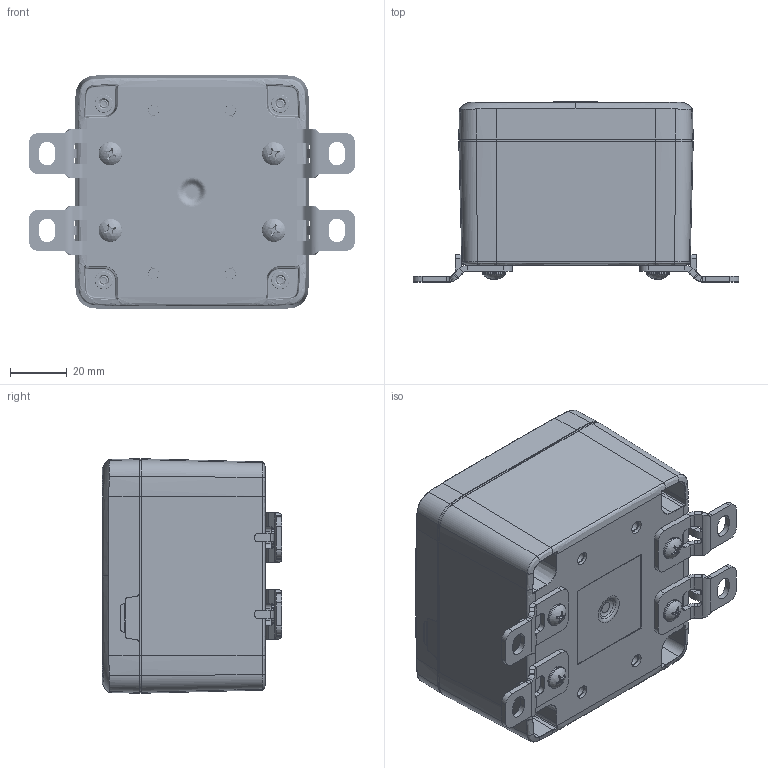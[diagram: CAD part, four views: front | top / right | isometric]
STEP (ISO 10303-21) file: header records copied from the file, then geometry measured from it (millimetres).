
FILE_DESCRIPTION (( 'STEP AP214' ), '1' );
FILE_NAME ('HN-33-24.STEP', '2026-09-24T17:57:46', ( '' ), ( '' ), 'SwSTEP 2.0', 'SolidWorks 2026', '' );
FILE_SCHEMA (( 'AUTOMOTIVE_DESIGN' ));
Length unit declared in the file: inch
Products named in the file (11): HN-33C_HN-33C-02; HN-90F-01_HN-90F-01; LABEL-107; HN-33-24; SCREWS-054_DEFAULT; HN-33G_default; HN-33B_HN-33BP-00; SCREWS-xxx_#8-16 PLASTITE, PAN, PHILLIPS_SCREWS-044; INSERTS-3_INSERTS-3; HN-33CG_HN-33CG-02; HN-33BN_HN-33BPN-00
Assembly tree (22 placements, depth 3):
  HN-33-24
    HN-33B_HN-33BP-00
      HN-33BN_HN-33BPN-00
      INSERTS-3_INSERTS-3  x4
      LABEL-107
    HN-33CG_HN-33CG-02
      HN-33C_HN-33C-02
      HN-33G_default
    SCREWS-054_DEFAULT  x4
    HN-90F-01_HN-90F-01  x4
    SCREWS-xxx_#8-16 PLASTITE, PAN, PHILLIPS_SCREWS-044  x4
Bounding box: 114.7 x 63.33 x 82.55 mm (x, y, z)
Volume: 121230.6 mm3; surface area: 93165.4 mm2
Topology: 19 solids, 21 shells, 3669 faces, 8808 edges, 5201 vertices
Faces by surface type: plane 785, cylinder 756, bspline 710, torus 680, cone 666, sphere 72
Full cylindrical faces by diameter (mm): 2.413 x4, 2.705 x4, 4.318 x4, 4.445 x16, 4.699 x8, 5.283 x8, 6.274 x4, 6.858 x4, 8.179 x4
Entity records: 107569 total; most frequent: CARTESIAN_POINT 46799, ORIENTED_EDGE 13002, DIRECTION 11157, EDGE_CURVE 6504, AXIS2_PLACEMENT_3D 4758, VERTEX_POINT 3930, EDGE_LOOP 3093, FACE_OUTER_BOUND 2911
